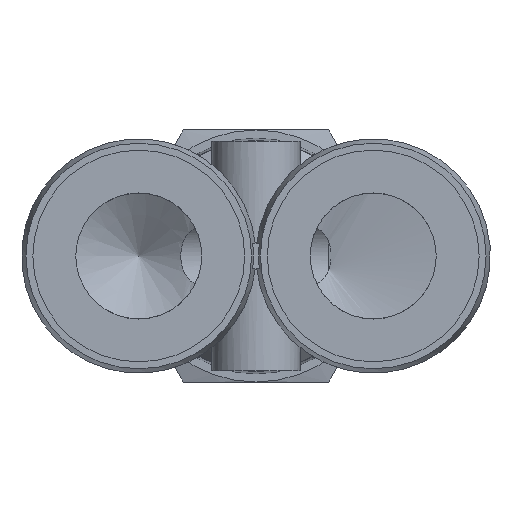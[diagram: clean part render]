
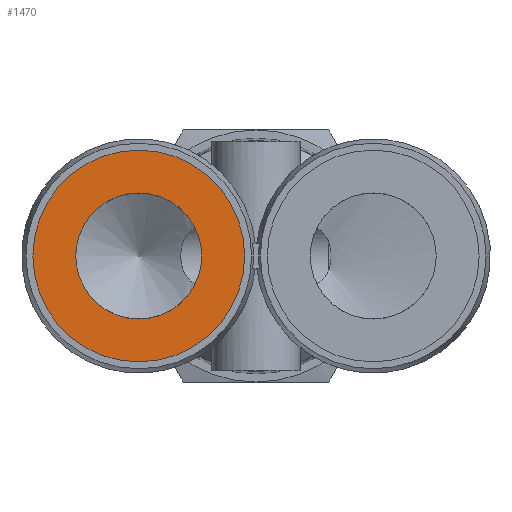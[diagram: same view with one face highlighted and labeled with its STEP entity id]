
A CAD part, front view. The second image highlights one B-rep face of the part: STEP entity #1470.
In plain terms, the highlighted planar face has unit normal (0, -1, 0).
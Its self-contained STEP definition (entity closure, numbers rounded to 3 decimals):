
#122=FACE_BOUND('',#293,.T.);
#142=PLANE('',#1649);
#205=FACE_OUTER_BOUND('',#292,.T.);
#292=EDGE_LOOP('',(#1232,#1233));
#293=EDGE_LOOP('',(#1234,#1235));
#481=CIRCLE('',#1603,5.);
#482=CIRCLE('',#1604,5.);
#508=CIRCLE('',#1647,8.4);
#509=CIRCLE('',#1648,8.4);
#629=VERTEX_POINT('',#2775);
#630=VERTEX_POINT('',#2776);
#654=VERTEX_POINT('',#2875);
#655=VERTEX_POINT('',#2876);
#820=EDGE_CURVE('',#629,#630,#481,.T.);
#821=EDGE_CURVE('',#630,#629,#482,.T.);
#860=EDGE_CURVE('',#654,#655,#508,.T.);
#862=EDGE_CURVE('',#655,#654,#509,.T.);
#1232=ORIENTED_EDGE('',*,*,#860,.F.);
#1233=ORIENTED_EDGE('',*,*,#862,.F.);
#1234=ORIENTED_EDGE('',*,*,#820,.T.);
#1235=ORIENTED_EDGE('',*,*,#821,.T.);
#1470=ADVANCED_FACE('',(#205,#122),#142,.F.);
#1603=AXIS2_PLACEMENT_3D('',#2777,#1896,#1897);
#1604=AXIS2_PLACEMENT_3D('',#2778,#1898,#1899);
#1647=AXIS2_PLACEMENT_3D('',#2877,#1995,#1996);
#1648=AXIS2_PLACEMENT_3D('',#2879,#1998,#1999);
#1649=AXIS2_PLACEMENT_3D('',#2880,#2000,#2001);
#1896=DIRECTION('center_axis',(0.,1.,0.));
#1897=DIRECTION('ref_axis',(1.,0.,0.));
#1898=DIRECTION('center_axis',(0.,1.,0.));
#1899=DIRECTION('ref_axis',(1.,0.,0.));
#1995=DIRECTION('center_axis',(0.,1.,0.));
#1996=DIRECTION('ref_axis',(-1.,0.,0.));
#1998=DIRECTION('center_axis',(0.,1.,0.));
#1999=DIRECTION('ref_axis',(-1.,0.,0.));
#2000=DIRECTION('center_axis',(0.,1.,0.));
#2001=DIRECTION('ref_axis',(0.,0.,-1.));
#2775=CARTESIAN_POINT('',(-4.3,-20.5,0.));
#2776=CARTESIAN_POINT('',(-14.3,-20.5,0.));
#2777=CARTESIAN_POINT('Origin',(-9.3,-20.5,0.));
#2778=CARTESIAN_POINT('Origin',(-9.3,-20.5,0.));
#2875=CARTESIAN_POINT('',(-17.7,-20.5,0.));
#2876=CARTESIAN_POINT('',(-0.9,-20.5,0.));
#2877=CARTESIAN_POINT('Origin',(-9.3,-20.5,0.));
#2879=CARTESIAN_POINT('Origin',(-9.3,-20.5,0.));
#2880=CARTESIAN_POINT('Origin',(-9.3,-20.5,0.));
